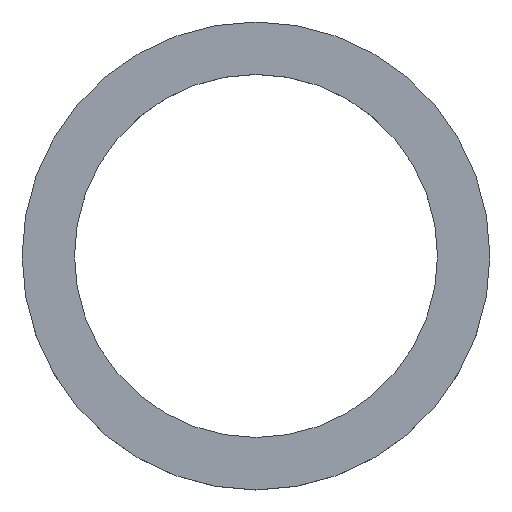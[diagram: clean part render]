
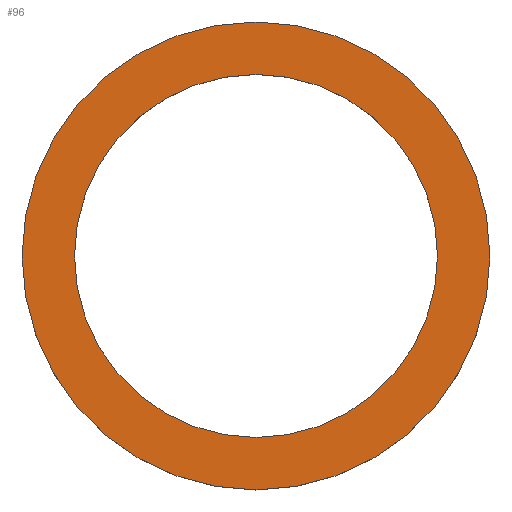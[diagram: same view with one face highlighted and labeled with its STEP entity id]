
A CAD part, top view. The second image highlights one B-rep face of the part: STEP entity #96.
In plain terms, the highlighted planar face has unit normal (0, 0, 1).
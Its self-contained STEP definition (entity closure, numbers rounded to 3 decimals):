
#2 = DIRECTION ( 'NONE',  ( 1., 0., 0. ) ) ;
#4 = ORIENTED_EDGE ( 'NONE', *, *, #34, .T. ) ;
#5 = CARTESIAN_POINT ( 'NONE',  ( -29., 0., 7. ) ) ;
#6 = CARTESIAN_POINT ( 'NONE',  ( -22.5, 0., 7. ) ) ;
#16 = VERTEX_POINT ( 'NONE', #141 ) ;
#17 = CARTESIAN_POINT ( 'NONE',  ( 0., 0., 7. ) ) ;
#19 = VERTEX_POINT ( 'NONE', #5 ) ;
#23 = DIRECTION ( 'NONE',  ( 1., 0., 0. ) ) ;
#24 = PLANE ( 'NONE',  #92 ) ;
#30 = CARTESIAN_POINT ( 'NONE',  ( 0., 0., 7. ) ) ;
#31 = DIRECTION ( 'NONE',  ( 1., 0., 0. ) ) ;
#32 = AXIS2_PLACEMENT_3D ( 'NONE', #101, #182, #23 ) ;
#34 = EDGE_CURVE ( 'NONE', #113, #19, #109, .T. ) ;
#39 = EDGE_CURVE ( 'NONE', #16, #116, #190, .T. ) ;
#44 = AXIS2_PLACEMENT_3D ( 'NONE', #152, #75, #31 ) ;
#46 = EDGE_CURVE ( 'NONE', #116, #16, #162, .T. ) ;
#51 = FACE_OUTER_BOUND ( 'NONE', #78, .T. ) ;
#72 = CARTESIAN_POINT ( 'NONE',  ( 0., 0., 7. ) ) ;
#75 = DIRECTION ( 'NONE',  ( 0., 0., 1. ) ) ;
#78 = EDGE_LOOP ( 'NONE', ( #169, #4 ) ) ;
#79 = ORIENTED_EDGE ( 'NONE', *, *, #46, .F. ) ;
#87 = AXIS2_PLACEMENT_3D ( 'NONE', #30, #154, #140 ) ;
#89 = DIRECTION ( 'NONE',  ( 0., 0., 1. ) ) ;
#91 = DIRECTION ( 'NONE',  ( 1., 0., 0. ) ) ;
#92 = AXIS2_PLACEMENT_3D ( 'NONE', #72, #89, #91 ) ;
#93 = AXIS2_PLACEMENT_3D ( 'NONE', #17, #97, #2 ) ;
#96 = ADVANCED_FACE ( 'NONE', ( #51, #173 ), #24, .T. ) ;
#97 = DIRECTION ( 'NONE',  ( 0., 0., 1. ) ) ;
#101 = CARTESIAN_POINT ( 'NONE',  ( 0., 0., 7. ) ) ;
#109 = CIRCLE ( 'NONE', #87, 29. ) ;
#113 = VERTEX_POINT ( 'NONE', #193 ) ;
#116 = VERTEX_POINT ( 'NONE', #6 ) ;
#118 = EDGE_LOOP ( 'NONE', ( #79, #130 ) ) ;
#127 = CIRCLE ( 'NONE', #32, 29. ) ;
#128 = EDGE_CURVE ( 'NONE', #19, #113, #127, .T. ) ;
#130 = ORIENTED_EDGE ( 'NONE', *, *, #39, .F. ) ;
#140 = DIRECTION ( 'NONE',  ( 1., 0., 0. ) ) ;
#141 = CARTESIAN_POINT ( 'NONE',  ( 22.5, 0., 7. ) ) ;
#152 = CARTESIAN_POINT ( 'NONE',  ( 0., 0., 7. ) ) ;
#154 = DIRECTION ( 'NONE',  ( 0., 0., 1. ) ) ;
#162 = CIRCLE ( 'NONE', #93, 22.5 ) ;
#169 = ORIENTED_EDGE ( 'NONE', *, *, #128, .T. ) ;
#173 = FACE_BOUND ( 'NONE', #118, .T. ) ;
#182 = DIRECTION ( 'NONE',  ( 0., 0., 1. ) ) ;
#190 = CIRCLE ( 'NONE', #44, 22.5 ) ;
#193 = CARTESIAN_POINT ( 'NONE',  ( 29., 0., 7. ) ) ;
